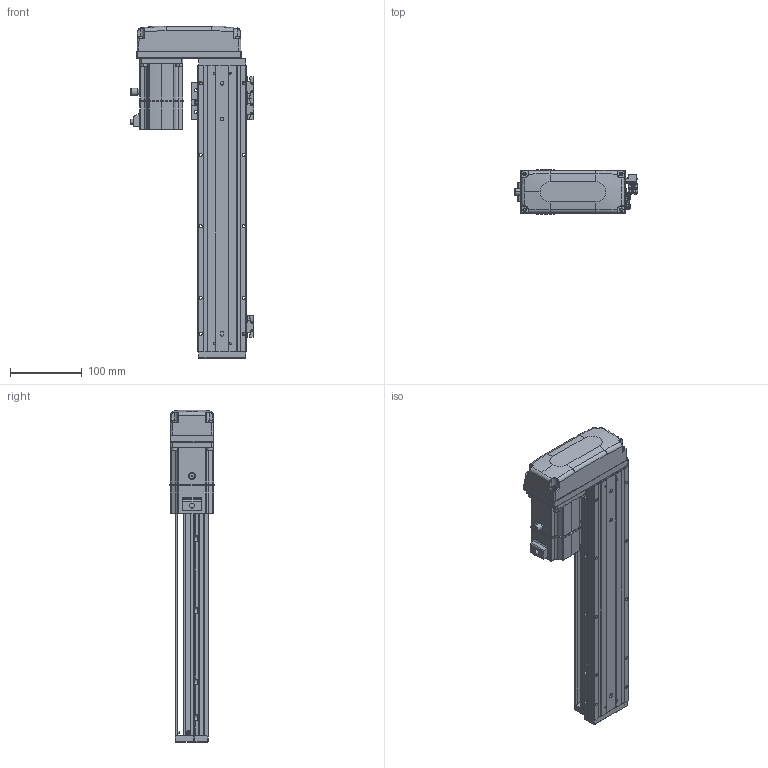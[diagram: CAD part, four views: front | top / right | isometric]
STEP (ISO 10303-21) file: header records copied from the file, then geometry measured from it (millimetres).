
FILE_DESCRIPTION (( 'STEP AP203' ), '1' );
FILE_NAME ('KTHA60-300-BR-M20-C4L.step', '2022-12-16T01:38:53', ( '微软用户' ), ( '微软中国' ), 'SwSTEP 2.0', 'SolidWorks 2020', '' );
FILE_SCHEMA (( 'CONFIG_CONTROL_DESIGN' ));
Length unit declared in the file: millimetre
Products named in the file (17): KTHA60-004; GBT 70.1-M4×16; _X2_4E0983F1_X0_200W_1; KTHA60-005; GBT77-2000M3-3; KTHA60-300-BR-M20-C4L; GB¨uT 70.2-M3¡Á5_M3¡Á6; GBT 70.1-M3℅6; GBT 70.3-M3℅6; CTHA60-016; EE_SX911P_R; KTHA60-002; CTHA60-017; BTH80-026; KTHA60-001_400; CTHA60-021; CTHA60-006-2_CTHA60-006-2
Assembly tree (51 placements, depth 2):
  KTHA60-300-BR-M20-C4L
    KTHA60-001_400
    KTHA60-004
    KTHA60-005
    GB¨uT 70.2-M3¡Á5_M3¡Á6  x6
    GBT 70.3-M3℅6  x4
    EE_SX911P_R  x3
    CTHA60-017  x3
    CTHA60-021  x2
    GBT 70.1-M4×16  x8
    GBT77-2000M3-3  x6
    GBT 70.1-M3℅6  x10
    CTHA60-016  x2
    KTHA60-002
    BTH80-026
    CTHA60-006-2_CTHA60-006-2
    _X2_4E0983F1_X0_200W_1
Bounding box: 173.02 x 62.42 x 464 mm (x, y, z)
Volume: 1174270 mm3; surface area: 310238.8 mm2
Topology: 54 solids, 54 shells, 2408 faces, 5717 edges, 3514 vertices
Faces by surface type: plane 1273, cylinder 638, cone 280, bspline 109, torus 92, sphere 16
Entity records: 44240 total; most frequent: CARTESIAN_POINT 10370, ORIENTED_EDGE 6482, DIRECTION 6478, EDGE_CURVE 3241, AXIS2_PLACEMENT_3D 2241, VERTEX_POINT 2023, LINE 1996, VECTOR 1996
